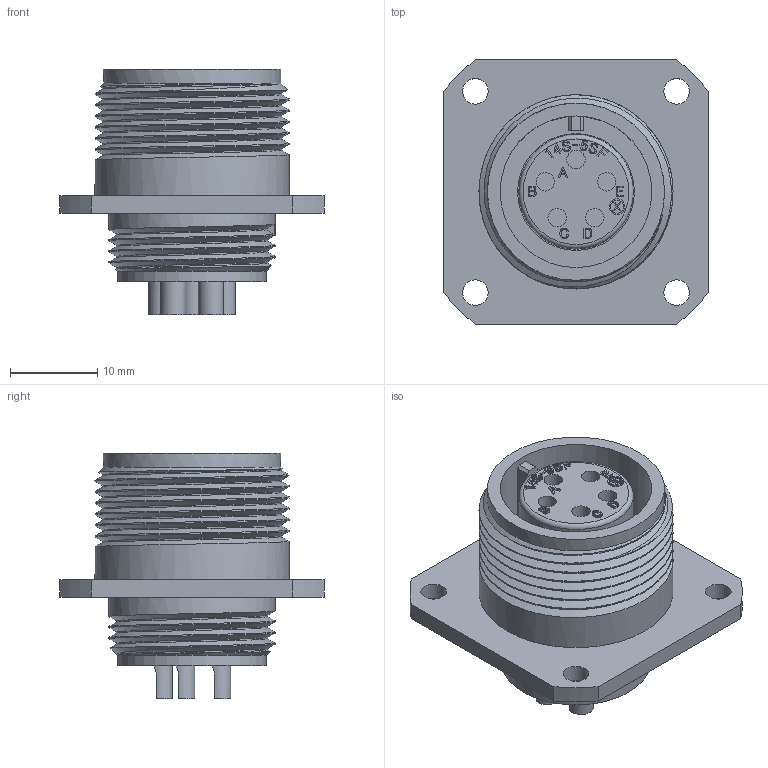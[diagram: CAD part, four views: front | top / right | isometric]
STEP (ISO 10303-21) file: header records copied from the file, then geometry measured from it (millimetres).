
FILE_DESCRIPTION (( 'STEP AP203' ), '1' );
FILE_NAME ('DMS3100A14S-5S(D263).STEP', '2022-01-26T02:25:57', ( '' ), ( '' ), 'SwSTEP 2.0', 'SolidWorks 2018', '' );
FILE_SCHEMA (( 'CONFIG_CONTROL_DESIGN' ));
Length unit declared in the file: millimetre
Products named in the file (1): DMS3100A14S-5S(D263)
Bounding box: 30.2 x 30.2 x 28.12 mm (x, y, z)
Volume: 6804.4 mm3; surface area: 6278.4 mm2
Topology: 1 solids, 1 shells, 645 faces, 1730 edges, 1149 vertices
Faces by surface type: plane 307, bspline 240, cylinder 80, torus 16, cone 2
Full cylindrical faces by diameter (mm): 1.5 x1, 1.8 x1, 2.11 x5, 2.93 x4, 11.78 x1, 13.08 x1, 13.36 x1, 14.86 x1, 16.98 x1, 17.34 x1, 19.01 x2, 20.26 x1, 22.19 x5
Entity records: 28188 total; most frequent: CARTESIAN_POINT 14003, ORIENTED_EDGE 3348, DIRECTION 2044, EDGE_CURVE 1674, VERTEX_POINT 1123, LINE 1000, VECTOR 1000, EDGE_LOOP 731
